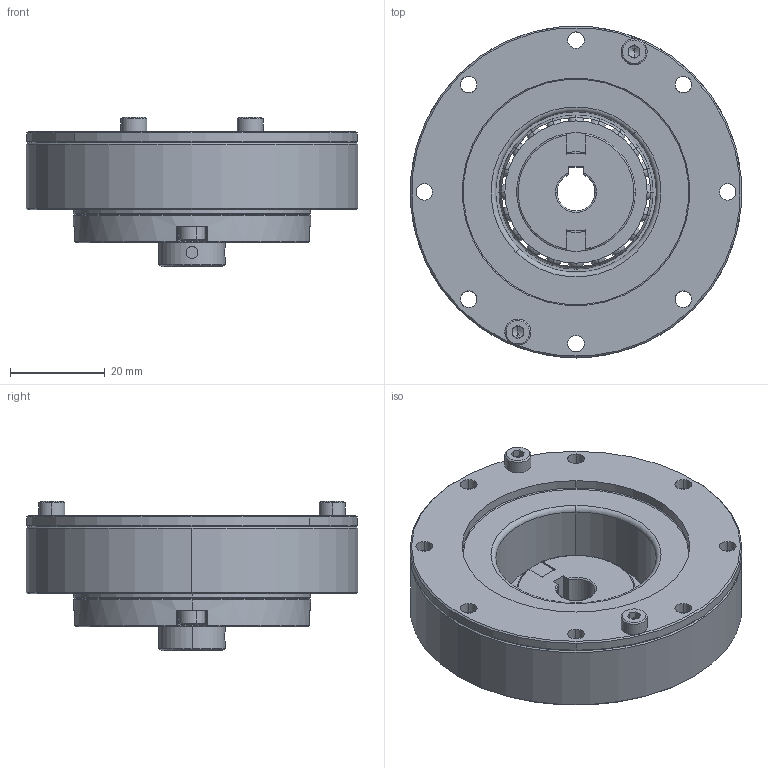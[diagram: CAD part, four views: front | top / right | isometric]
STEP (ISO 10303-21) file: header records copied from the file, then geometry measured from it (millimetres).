
FILE_DESCRIPTION (( 'STEP AP203' ), '1' );
FILE_NAME ('BHS-14-XXX-U-¢ò.STEP', '2019-01-15T03:39:44', ( 'User' ), ( 'China' ), 'SwSTEP 2.0', 'SolidWorks 2015', '' );
FILE_SCHEMA (( 'CONFIG_CONTROL_DESIGN' ));
Length unit declared in the file: millimetre
Products named in the file (1): BHS-14-XXX-U-ｊ
Bounding box: 70 x 70 x 31.5 mm (x, y, z)
Surface area: 28503.5 mm2 (no closed solid volume)
Topology: 0 solids, 22 shells, 349 faces, 1153 edges, 763 vertices
Faces by surface type: plane 120, cylinder 119, cone 49, sphere 40, torus 19, bspline 2
Entity records: 12709 total; most frequent: CARTESIAN_POINT 3076, DIRECTION 2090, ORIENTED_EDGE 1837, EDGE_CURVE 1041, AXIS2_PLACEMENT_3D 825, VERTEX_POINT 703, CIRCLE 477, VECTOR 440
